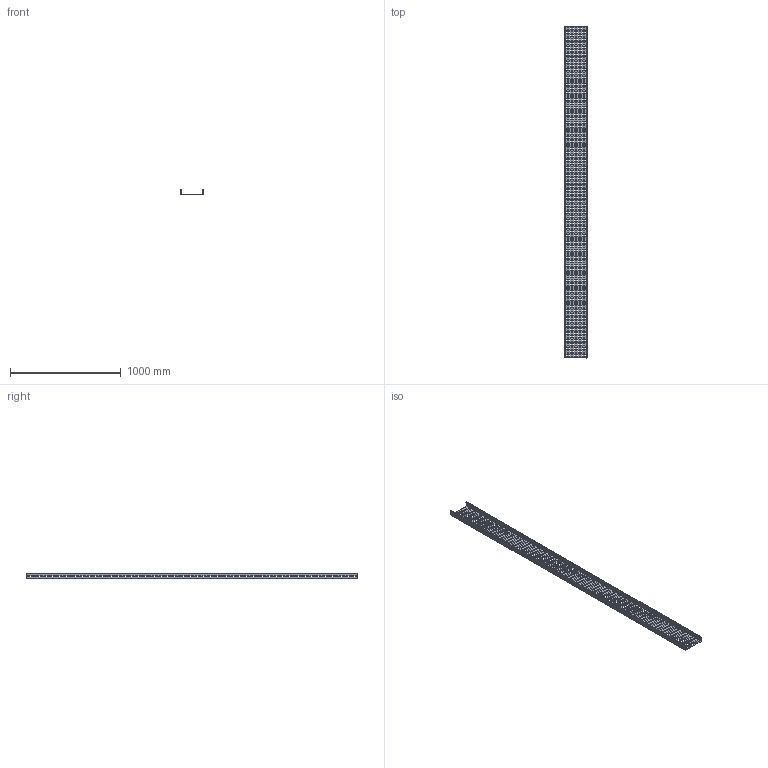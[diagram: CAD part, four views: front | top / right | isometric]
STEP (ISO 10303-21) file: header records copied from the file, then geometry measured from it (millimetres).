
FILE_DESCRIPTION(/* description */ (''),/* implementation_level */ '2;1');
FILE_NAME(/* name */ 'GE-KT2-20-A50-15.step',/* time_stamp */ '2025-06-27T11:36:18+03:00',/* author */ (''),/* organization */ (''),/* preprocessor_version */ 'ST-DEVELOPER v20.1',/* originating_system */ 'Autodesk Translation Framework v14.10.0.0',/* authorisation */ '');
FILE_SCHEMA (('AUTOMOTIVE_DESIGN { 1 0 10303 214 3 1 1 }'));
Products named in the file (1): GE-KT2-20-A50-15-reçete
Bounding box: 200 x 3000 x 50 mm (x, y, z)
Volume: 1153485.8 mm3; surface area: 1622620 mm2
Topology: 1 solids, 1 shells, 3398 faces, 10188 edges, 6792 vertices
Faces by surface type: plane 1702, cylinder 1696
Entity records: 118893 total; most frequent: CARTESIAN_POINT 20379, DIRECTION 20378, ORIENTED_EDGE 20376, EDGE_CURVE 10188, LINE 6796, VECTOR 6796, VERTEX_POINT 6792, AXIS2_PLACEMENT_3D 6791
